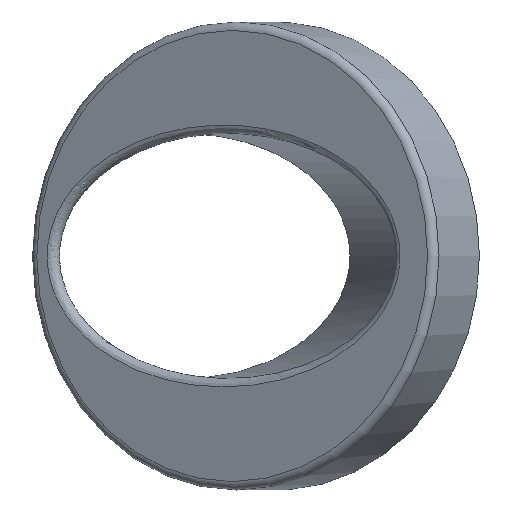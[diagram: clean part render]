
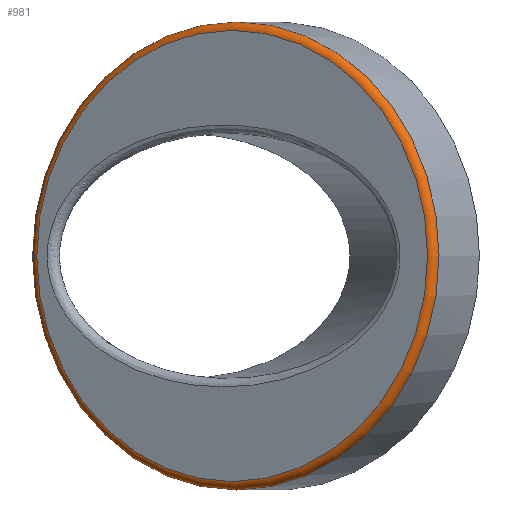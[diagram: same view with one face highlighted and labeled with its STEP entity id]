
A CAD part, top view. The second image highlights one B-rep face of the part: STEP entity #981.
In plain terms, the highlighted toroidal (fillet/blend) face has major radius 4.05 mm and minor radius 0.15 mm.
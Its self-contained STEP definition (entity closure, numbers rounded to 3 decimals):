
#185 = CYLINDRICAL_SURFACE('',#186,4.2);
#186 = AXIS2_PLACEMENT_3D('',#187,#188,#189);
#187 = CARTESIAN_POINT('',(-21.5,-14.8,22.414));
#188 = DIRECTION('',(0.5,-0.,-0.866));
#189 = DIRECTION('',(0.866,0.,0.5));
#787 = PLANE('',#788);
#788 = AXIS2_PLACEMENT_3D('',#789,#790,#791);
#789 = CARTESIAN_POINT('',(-22.3,-14.8,23.8));
#790 = DIRECTION('',(-0.5,0.,0.866));
#791 = DIRECTION('',(0.866,0.,0.5));
#898 = EDGE_CURVE('',#899,#899,#901,.T.);
#899 = VERTEX_POINT('',#900);
#900 = CARTESIAN_POINT('',(-18.588,-14.8,25.77));
#901 = SURFACE_CURVE('',#902,(#907,#914),.PCURVE_S1.);
#902 = CIRCLE('',#903,4.2);
#903 = AXIS2_PLACEMENT_3D('',#904,#905,#906);
#904 = CARTESIAN_POINT('',(-22.225,-14.8,23.67));
#905 = DIRECTION('',(-0.5,0.,0.866));
#906 = DIRECTION('',(0.866,0.,0.5));
#907 = PCURVE('',#185,#908);
#908 = DEFINITIONAL_REPRESENTATION('',(#909),#913);
#909 = LINE('',#910,#911);
#910 = CARTESIAN_POINT('',(-0.,-1.45));
#911 = VECTOR('',#912,1.);
#912 = DIRECTION('',(-1.,0.));
#913 = ( GEOMETRIC_REPRESENTATION_CONTEXT(2) 
PARAMETRIC_REPRESENTATION_CONTEXT() REPRESENTATION_CONTEXT('2D SPACE',''
  ) );
#914 = PCURVE('',#915,#920);
#915 = TOROIDAL_SURFACE('',#916,4.05,0.15);
#916 = AXIS2_PLACEMENT_3D('',#917,#918,#919);
#917 = CARTESIAN_POINT('',(-22.225,-14.8,23.67));
#918 = DIRECTION('',(-0.5,0.,0.866));
#919 = DIRECTION('',(0.866,0.,0.5));
#920 = DEFINITIONAL_REPRESENTATION('',(#921),#925);
#921 = LINE('',#922,#923);
#922 = CARTESIAN_POINT('',(0.,0.));
#923 = VECTOR('',#924,1.);
#924 = DIRECTION('',(1.,0.));
#925 = ( GEOMETRIC_REPRESENTATION_CONTEXT(2) 
PARAMETRIC_REPRESENTATION_CONTEXT() REPRESENTATION_CONTEXT('2D SPACE',''
  ) );
#958 = EDGE_CURVE('',#959,#959,#961,.T.);
#959 = VERTEX_POINT('',#960);
#960 = CARTESIAN_POINT('',(-18.793,-14.8,25.825));
#961 = SURFACE_CURVE('',#962,(#967,#974),.PCURVE_S1.);
#962 = CIRCLE('',#963,4.05);
#963 = AXIS2_PLACEMENT_3D('',#964,#965,#966);
#964 = CARTESIAN_POINT('',(-22.3,-14.8,23.8));
#965 = DIRECTION('',(-0.5,0.,0.866));
#966 = DIRECTION('',(0.866,0.,0.5));
#967 = PCURVE('',#787,#968);
#968 = DEFINITIONAL_REPRESENTATION('',(#969),#973);
#969 = CIRCLE('',#970,4.05);
#970 = AXIS2_PLACEMENT_2D('',#971,#972);
#971 = CARTESIAN_POINT('',(0.,0.));
#972 = DIRECTION('',(1.,0.));
#973 = ( GEOMETRIC_REPRESENTATION_CONTEXT(2) 
PARAMETRIC_REPRESENTATION_CONTEXT() REPRESENTATION_CONTEXT('2D SPACE',''
  ) );
#974 = PCURVE('',#915,#975);
#975 = DEFINITIONAL_REPRESENTATION('',(#976),#980);
#976 = LINE('',#977,#978);
#977 = CARTESIAN_POINT('',(0.,1.571));
#978 = VECTOR('',#979,1.);
#979 = DIRECTION('',(1.,0.));
#980 = ( GEOMETRIC_REPRESENTATION_CONTEXT(2) 
PARAMETRIC_REPRESENTATION_CONTEXT() REPRESENTATION_CONTEXT('2D SPACE',''
  ) );
#981 = ADVANCED_FACE('',(#982),#915,.T.);
#982 = FACE_BOUND('',#983,.T.);
#983 = EDGE_LOOP('',(#984,#1006,#1007,#1008));
#984 = ORIENTED_EDGE('',*,*,#985,.F.);
#985 = EDGE_CURVE('',#899,#959,#986,.T.);
#986 = SEAM_CURVE('',#987,(#992,#999),.PCURVE_S1.);
#987 = CIRCLE('',#988,0.15);
#988 = AXIS2_PLACEMENT_3D('',#989,#990,#991);
#989 = CARTESIAN_POINT('',(-18.718,-14.8,25.695));
#990 = DIRECTION('',(0.,-1.,0.));
#991 = DIRECTION('',(0.866,0.,0.5));
#992 = PCURVE('',#915,#993);
#993 = DEFINITIONAL_REPRESENTATION('',(#994),#998);
#994 = LINE('',#995,#996);
#995 = CARTESIAN_POINT('',(0.,0.));
#996 = VECTOR('',#997,1.);
#997 = DIRECTION('',(0.,1.));
#998 = ( GEOMETRIC_REPRESENTATION_CONTEXT(2) 
PARAMETRIC_REPRESENTATION_CONTEXT() REPRESENTATION_CONTEXT('2D SPACE',''
  ) );
#999 = PCURVE('',#915,#1000);
#1000 = DEFINITIONAL_REPRESENTATION('',(#1001),#1005);
#1001 = LINE('',#1002,#1003);
#1002 = CARTESIAN_POINT('',(6.283,0.));
#1003 = VECTOR('',#1004,1.);
#1004 = DIRECTION('',(0.,1.));
#1005 = ( GEOMETRIC_REPRESENTATION_CONTEXT(2) 
PARAMETRIC_REPRESENTATION_CONTEXT() REPRESENTATION_CONTEXT('2D SPACE',''
  ) );
#1006 = ORIENTED_EDGE('',*,*,#898,.T.);
#1007 = ORIENTED_EDGE('',*,*,#985,.T.);
#1008 = ORIENTED_EDGE('',*,*,#958,.F.);
